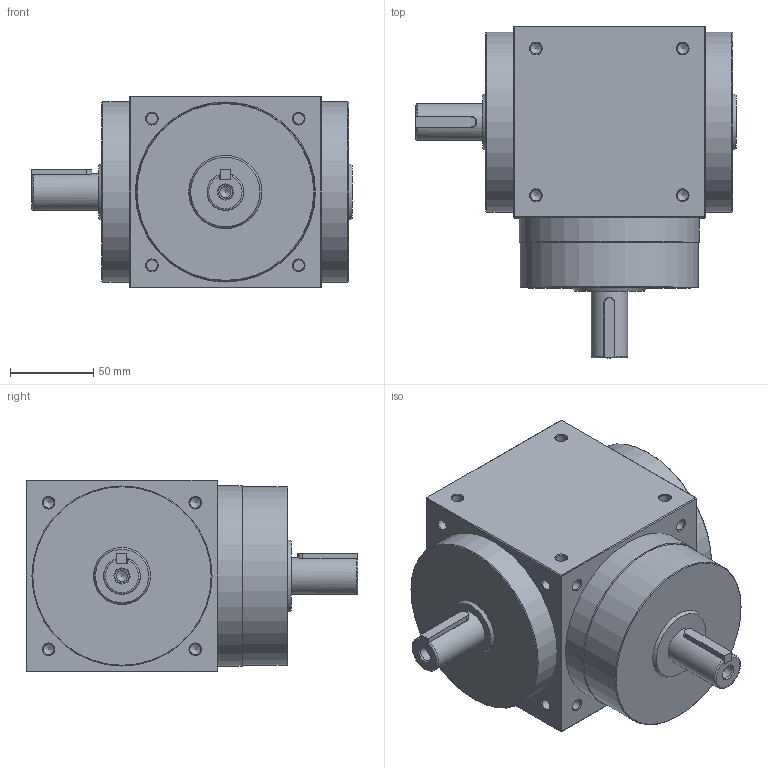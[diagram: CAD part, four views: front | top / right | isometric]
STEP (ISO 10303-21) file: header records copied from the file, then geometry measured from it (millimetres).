
FILE_DESCRIPTION((''),'2;1');
FILE_NAME('D:\유성\SBT 베벨기어박스\최종도면모음\3D\SBT115\SBT115LS001K.stp','2014-05-20T15:51:35',('nagyu'),(''),'Autodesk Inventor 2013','Autodesk Inventor 2013','');
FILE_SCHEMA(('AUTOMOTIVE_DESIGN { 1 0 10303 214 1 1 1 1 }'));
Length unit declared in the file: millimetre
Products named in the file (1): SBT115LS001K_Shrinkwrap_1
Bounding box: 192 x 199 x 115 mm (x, y, z)
Volume: 2226273.9 mm3; surface area: 117450.8 mm2
Topology: 1 solids, 1 shells, 189 faces, 524 edges, 319 vertices
Faces by surface type: cylinder 62, cone 59, plane 56, bspline 10, torus 2
Full cylindrical faces by diameter (mm): 6.647 x50, 8 x2, 8.5 x2, 22 x2, 107 x1, 108 x3
Entity records: 5366 total; most frequent: CARTESIAN_POINT 1330, DIRECTION 886, ORIENTED_EDGE 674, AXIS2_PLACEMENT_3D 389, EDGE_CURVE 337, EDGE_LOOP 322, VERTEX_POINT 251, FACE_OUTER_BOUND 189
